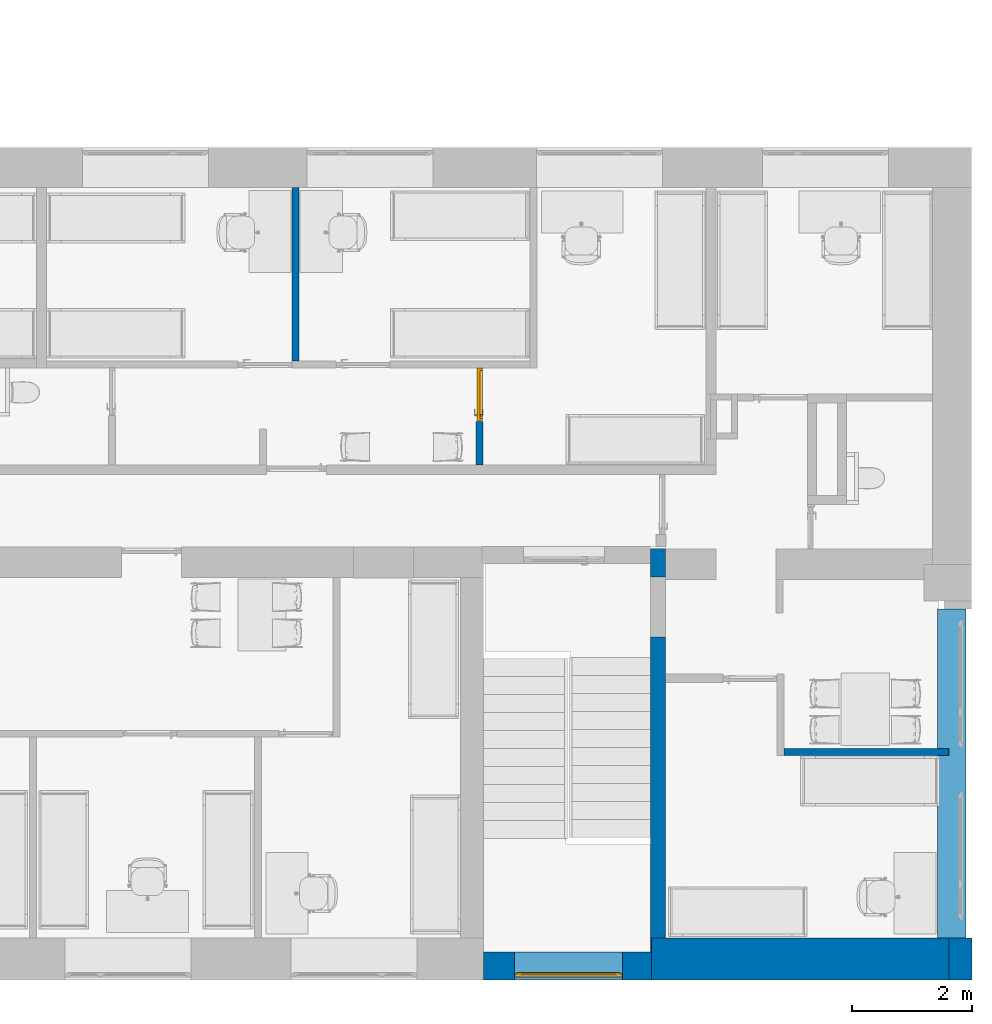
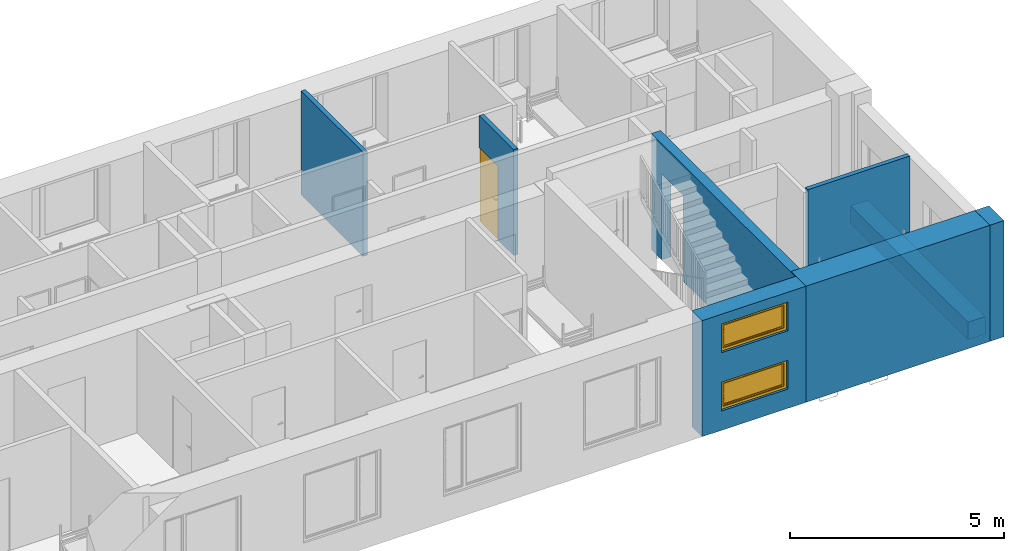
# One storey, part 11 of 48: 8 walls, 2 windows, 1 door, 9 openings.
"""IFC2X3 building model written with IfcOpenShell, lengths in millimetres."""

from ifc_helpers import new_model, entity, si_unit, converted_unit, derived_unit, direction, frame, frame_2d, origin, origin_2d_with_axis, place, context, subcontext, project, spatial, polyline, rectangle, outline, extrude, clip, bounded_halfspace, faceted_brep, source, transform, mapped, material, material_list, layer, layer_set, layer_usage, type_object, type_shapes, element, fill, save


model = new_model("IFC2X3")

# Units and contexts
model_context = context("Model", 3, precision=0.01, world=origin(), true_north=direction((6.12303176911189e-17, 1.0)))
body_context = subcontext(model_context, "Body", "Model", "MODEL_VIEW")
ifc_project = project(units=[si_unit("LENGTHUNIT", "METRE", prefix="MILLI"), si_unit("AREAUNIT", "SQUARE_METRE"), si_unit("VOLUMEUNIT", "CUBIC_METRE"), converted_unit("PLANEANGLEUNIT", "DEGREE", entity("IfcRatioMeasure", 0.0174532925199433), si_unit("PLANEANGLEUNIT", "RADIAN"), dimensions=[0, 0, 0, 0, 0, 0, 0]), si_unit("MASSUNIT", "GRAM", prefix="KILO"), derived_unit("MASSDENSITYUNIT", [(si_unit("MASSUNIT", "GRAM", prefix="KILO"), 1), (si_unit("LENGTHUNIT", "METRE"), -3)]), si_unit("TIMEUNIT", "SECOND"), si_unit("FREQUENCYUNIT", "HERTZ"), si_unit("THERMODYNAMICTEMPERATUREUNIT", "DEGREE_CELSIUS"), derived_unit("THERMALTRANSMITTANCEUNIT", [(si_unit("MASSUNIT", "GRAM", prefix="KILO"), 1), (si_unit("THERMODYNAMICTEMPERATUREUNIT", "KELVIN"), -1), (si_unit("TIMEUNIT", "SECOND"), -3)]), derived_unit("VOLUMETRICFLOWRATEUNIT", [(si_unit("LENGTHUNIT", "METRE"), 3), (si_unit("TIMEUNIT", "SECOND"), -1)]), si_unit("ELECTRICCURRENTUNIT", "AMPERE"), si_unit("ELECTRICVOLTAGEUNIT", "VOLT"), si_unit("POWERUNIT", "WATT"), si_unit("FORCEUNIT", "NEWTON", prefix="KILO"), si_unit("ILLUMINANCEUNIT", "LUX"), si_unit("LUMINOUSFLUXUNIT", "LUMEN"), si_unit("LUMINOUSINTENSITYUNIT", "CANDELA"), derived_unit("USERDEFINED", [(si_unit("MASSUNIT", "GRAM", prefix="KILO"), -1), (si_unit("LENGTHUNIT", "METRE"), -2), (si_unit("TIMEUNIT", "SECOND"), 3), (si_unit("LUMINOUSFLUXUNIT", "LUMEN"), 1)]), derived_unit("LINEARVELOCITYUNIT", [(si_unit("LENGTHUNIT", "METRE"), 1), (si_unit("TIMEUNIT", "SECOND"), -1)]), si_unit("PRESSUREUNIT", "PASCAL"), derived_unit("USERDEFINED", [(si_unit("LENGTHUNIT", "METRE"), -2), (si_unit("MASSUNIT", "GRAM", prefix="KILO"), 1), (si_unit("TIMEUNIT", "SECOND"), -2)]), derived_unit("LINEARFORCEUNIT", [(si_unit("MASSUNIT", "GRAM", prefix="KILO"), 1), (si_unit("LENGTHUNIT", "METRE"), 1), (si_unit("TIMEUNIT", "SECOND"), -2), (si_unit("LENGTHUNIT", "METRE"), -1)]), derived_unit("PLANARFORCEUNIT", [(si_unit("MASSUNIT", "GRAM", prefix="KILO"), 1), (si_unit("LENGTHUNIT", "METRE"), 1), (si_unit("TIMEUNIT", "SECOND"), -2), (si_unit("LENGTHUNIT", "METRE"), -2)])], contexts=[model_context])

# Site, building, storey
site_placement = place(None, origin())
site = spatial("IfcSite", under=ifc_project, at=site_placement, Name="Default", CompositionType="ELEMENT")
building_placement = place(site_placement, origin())
building = spatial("IfcBuilding", under=site, at=building_placement, Name="SMA ARH", CompositionType="ELEMENT")
storey_placement = place(building_placement, frame((0.0, 0.0, 6600.0)))
storey = spatial("IfcBuildingStorey", under=building, at=storey_placement, Name="3 Korrus", CompositionType="ELEMENT", Elevation=6599.99999999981)

# Wall, openings
ifc_material_1 = material(Name="_ol.olev sein")
ifc_layer_1 = layer(ifc_material_1, 700.0)
ifc_layer_set_1 = layer_set([ifc_layer_1], Name="Basic Wall:Generic - 700mm")
ifc_layer_usage_1 = layer_usage(ifc_layer_set_1, "AXIS2", "POSITIVE", -350.0)
wall_type_1 = type_object("IfcWallType", Name="Basic Wall:Generic - 700mm", PredefinedType="STANDARD", material=ifc_layer_set_1)
wall_1_placement = place(storey_placement, frame((33635.0, -350.0, 0.0)))
wall_1 = element("IfcWallStandardCase", 1, at=wall_1_placement, inside=storey, type_object=wall_type_1, material=ifc_layer_usage_1, Name="Basic Wall:Generic - 700mm", ObjectType="Basic Wall:Generic - 700mm", context=body_context, shape_type="SweptSolid", body=[
    extrude(rectangle(XDim=4955.5990008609, YDim=700.0, at=frame_2d((2477.79950043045, -5.6843418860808e-14), x_axis=(-1.0, 0.0))), origin(), (0.0, 0.0, 1.0), 3309.99999999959),
])
opening_1_placement = place(wall_1_placement, origin())
element("IfcOpeningElement", 2, at=opening_1_placement, cuts=wall_1, Name="Basic Wall:Generic - 700mm", ObjectType="Opening", context=body_context, shape_type="SweptSolid", body=[
    extrude(rectangle(XDim=820.0, YDim=1800.0, at=frame_2d((0.0, 0.0), x_axis=(0.0, 1.0))), frame((-1385.0, -1404.0, 960.0), z_axis=(0.0, 1.0, 0.0), x_axis=(-1.0, 0.0, 0.0)), (0.0, 0.0, 1.0), 3048.0),
])
opening_2_placement = place(wall_1_placement, origin())
element("IfcOpeningElement", 3, at=opening_2_placement, cuts=wall_1, Name="Basic Wall:Generic - 700mm", ObjectType="Opening", context=body_context, shape_type="SweptSolid", body=[
    extrude(rectangle(XDim=820.0, YDim=1800.0, at=frame_2d((0.0, 0.0), x_axis=(0.0, 1.0))), frame((-1385.0, -1404.0, 2620.0), z_axis=(0.0, 1.0, 0.0), x_axis=(-1.0, 0.0, 0.0)), (0.0, 0.0, 1.0), 3048.0),
])
opening_3_placement = place(wall_1_placement, origin())
element("IfcOpeningElement", 4, at=opening_3_placement, cuts=wall_1, Name="Basic Wall:Generic - 700mm", ObjectType="Recess", context=body_context, shape_type="SweptSolid", body=[
    extrude(rectangle(XDim=761.05, YDim=2098.41008000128, at=frame_2d((-2.1600499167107e-12, 0.0), x_axis=(0.0, 1.0))), frame((-4954.20504000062, 250.0, 319.475000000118), z_axis=(0.0, 1.0, 0.0), x_axis=(1.0, 0.0, 0.0)), (0.0, 0.0, 1.0), 100.0),
    extrude(rectangle(XDim=761.05, YDim=2098.41008000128, at=frame_2d((2.1600499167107e-12, 0.0), x_axis=(0.0, 1.0))), frame((-8719.20504000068, 250.0, 319.47500000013), z_axis=(0.0, 1.0, 0.0), x_axis=(1.0, 0.0, 0.0)), (0.0, 0.0, 1.0), 100.0),
    extrude(rectangle(XDim=761.05, YDim=2098.41008000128, at=frame_2d((-2.1600499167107e-12, 0.0), x_axis=(0.0, 1.0))), frame((-12504.2050400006, 250.0, 319.475000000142), z_axis=(0.0, 1.0, 0.0), x_axis=(1.0, 0.0, 0.0)), (0.0, 0.0, 1.0), 100.0),
    extrude(rectangle(XDim=761.05, YDim=2098.41008000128, at=frame_2d((0.0, 0.0), x_axis=(0.0, 1.0))), frame((-16264.2050400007, 250.0, 319.475000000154), z_axis=(0.0, 1.0, 0.0), x_axis=(1.0, 0.0, 0.0)), (0.0, 0.0, 1.0), 100.0),
    extrude(rectangle(XDim=761.05, YDim=2098.41008000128, at=frame_2d((-2.1600499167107e-12, 0.0), x_axis=(0.0, 1.0))), frame((-20024.2050400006, 250.0, 319.475000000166), z_axis=(0.0, 1.0, 0.0), x_axis=(1.0, 0.0, 0.0)), (0.0, 0.0, 1.0), 100.0),
    extrude(rectangle(XDim=761.05, YDim=2098.41008000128, at=frame_2d((0.0, 0.0), x_axis=(0.0, 1.0))), frame((-23804.2050400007, 250.0, 319.475000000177), z_axis=(0.0, 1.0, 0.0), x_axis=(1.0, 0.0, 0.0)), (0.0, 0.0, 1.0), 100.0),
    extrude(rectangle(XDim=761.05, YDim=2098.41008000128, at=frame_2d((0.0, 0.0), x_axis=(0.0, 1.0))), frame((-27564.2050400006, 250.0, 319.475000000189), z_axis=(0.0, 1.0, 0.0), x_axis=(1.0, 0.0, 0.0)), (0.0, 0.0, 1.0), 100.0),
    extrude(rectangle(XDim=761.05, YDim=2098.41008000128, at=frame_2d((1.13686837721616e-13, 0.0), x_axis=(0.0, 1.0))), frame((-31344.2050400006, 250.0, 319.475000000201), z_axis=(0.0, 1.0, 0.0), x_axis=(1.0, 0.0, 0.0)), (0.0, 0.0, 1.0), 100.0),
    extrude(rectangle(XDim=761.05, YDim=2098.41008000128, at=frame_2d((2.1600499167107e-12, 0.0), x_axis=(0.0, 1.0))), frame((-4954.20504000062, 250.0, 3629.47499999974), z_axis=(0.0, 1.0, 0.0), x_axis=(1.0, 0.0, 0.0)), (0.0, 0.0, 1.0), 100.0),
    extrude(rectangle(XDim=761.05, YDim=2098.41008000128, at=frame_2d((-2.1600499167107e-12, 0.0), x_axis=(0.0, 1.0))), frame((-8719.20504000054, 250.0, 3629.47499999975), z_axis=(0.0, 1.0, 0.0), x_axis=(1.0, 0.0, 0.0)), (0.0, 0.0, 1.0), 100.0),
    extrude(rectangle(XDim=761.05, YDim=2098.41008000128, at=frame_2d((0.0, 0.0), x_axis=(0.0, 1.0))), frame((-12504.2050400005, 250.0, 3629.47499999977), z_axis=(0.0, 1.0, 0.0), x_axis=(1.0, 0.0, 0.0)), (0.0, 0.0, 1.0), 100.0),
    extrude(rectangle(XDim=761.05, YDim=2098.41008000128, at=frame_2d((0.0, 0.0), x_axis=(0.0, 1.0))), frame((-16264.2050400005, 250.0, 3629.47499999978), z_axis=(0.0, 1.0, 0.0), x_axis=(1.0, 0.0, 0.0)), (0.0, 0.0, 1.0), 100.0),
    extrude(rectangle(XDim=761.05, YDim=2098.41008000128, at=frame_2d((0.0, 0.0), x_axis=(0.0, 1.0))), frame((-20024.2050400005, 250.0, 3629.47499999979), z_axis=(0.0, 1.0, 0.0), x_axis=(1.0, 0.0, 0.0)), (0.0, 0.0, 1.0), 100.0),
    extrude(rectangle(XDim=761.05, YDim=2098.41008000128, at=frame_2d((0.0, 0.0), x_axis=(0.0, 1.0))), frame((-23804.2050400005, 250.0, 3629.47499999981), z_axis=(0.0, 1.0, 0.0), x_axis=(1.0, 0.0, 0.0)), (0.0, 0.0, 1.0), 100.0),
    extrude(rectangle(XDim=761.05, YDim=2098.41008000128, at=frame_2d((0.0, 0.0), x_axis=(0.0, 1.0))), frame((-27564.2050400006, 250.0, 3629.47499999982), z_axis=(0.0, 1.0, 0.0), x_axis=(1.0, 0.0, 0.0)), (0.0, 0.0, 1.0), 100.0),
    extrude(rectangle(XDim=761.05, YDim=2098.41008000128, at=frame_2d((1.13686837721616e-13, 0.0), x_axis=(0.0, 1.0))), frame((-31344.2050400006, 250.0, 3629.47499999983), z_axis=(0.0, 1.0, 0.0), x_axis=(1.0, 0.0, 0.0)), (0.0, 0.0, 1.0), 100.0),
])

# Wall, opening
ifc_layer_2 = layer(ifc_material_1, 250.0)
ifc_layer_set_2 = layer_set([ifc_layer_2], Name="Basic Wall:Generic - 250mm")
ifc_layer_usage_2 = layer_usage(ifc_layer_set_2, "AXIS2", "NEGATIVE", 125.0)
wall_type_2 = type_object("IfcWallType", Name="Basic Wall:Generic - 250mm", PredefinedType="STANDARD", material=ifc_layer_set_2)
wall_2_placement = place(storey_placement, frame((33740.0, 6520.0, 0.0), z_axis=(0.0, 0.0, 1.0), x_axis=(0.0, -1.0, 0.0)))
wall_2 = element("IfcWallStandardCase", 5, at=wall_2_placement, inside=storey, type_object=wall_type_2, material=ifc_layer_usage_2, Name="Basic Wall:Generic - 250mm", ObjectType="Basic Wall:Generic - 250mm", context=body_context, shape_type="Clipping", body=[
    clip(clip(extrude(outline(polyline([(6520.0, -105.0), (6520.0, 125.0), (510.0, 125.0), (30.0, 125.0), (30.0, -125.0), (280.0, -125.0), (6520.0, -125.0), (6750.0, -125.0), (6750.0, -105.0), (6520.0, -105.0)])), origin(), (0.0, 0.0, 1.0), 3309.99999999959), bounded_halfspace(frame((30.0, -125.0, 2980.0), z_axis=(0.0, 0.0, -1.0), x_axis=(-1.0, 0.0, 0.0)), True, frame((30.0, -125.0, 2980.0), z_axis=(0.0, 0.0, -1.0), x_axis=(-1.0, 0.0, 0.0)), polyline([(0.0, 0.0), (30.0, 0.0), (30.0, 250.0), (0.0, 250.0), (0.0, 0.0)]))), bounded_halfspace(frame((30.0, 125.0, 2980.0), z_axis=(1.0, 0.0, 0.0), x_axis=(0.0, 0.0, 1.0)), True, frame((30.0, 125.0, 2980.0), z_axis=(1.0, 0.0, 0.0), x_axis=(0.0, 0.0, 1.0)), polyline([(0.0, 0.0), (330.0, 0.0), (330.0, 250.0), (0.0, 250.0), (0.0, 0.0)]))),
])
opening_4_placement = place(wall_2_placement, origin())
element("IfcOpeningElement", 6, at=opening_4_placement, cuts=wall_2, Name="Basic Wall:Generic - 250mm", ObjectType="Opening", context=body_context, shape_type="SweptSolid", body=[
    extrude(rectangle(XDim=2448.3999999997, YDim=1000.00000000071, at=origin_2d_with_axis()), frame((1010.0, -125.0, 1224.19999999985), z_axis=(0.0, 1.0, 0.0), x_axis=(0.0, 0.0, -1.0)), (0.0, 0.0, 1.0), 250.000000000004),
])

ifc_layer_3 = layer(ifc_material_1, 380.0)
ifc_layer_set_3 = layer_set([ifc_layer_3], Name="Basic Wall:Generic - 380mm")
ifc_layer_usage_3 = layer_usage(ifc_layer_set_3, "AXIS2", "POSITIVE", -190.0)
wall_type_3 = type_object("IfcWallType", Name="Basic Wall:Generic - 380mm", PredefinedType="STANDARD", material=ifc_layer_set_3)
wall_3_placement = place(storey_placement, frame((38780.5990008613, -700.0, 0.0), z_axis=(0.0, 0.0, 1.0), x_axis=(0.0, 1.0, 0.0)))
wall_3 = element("IfcWallStandardCase", 7, at=wall_3_placement, inside=storey, type_object=wall_type_3, material=ifc_layer_usage_3, Name="Basic Wall:Generic - 380mm", ObjectType="Basic Wall:Generic - 380mm", context=body_context, shape_type="SweptSolid", body=[
    extrude(rectangle(XDim=699.999999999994, YDim=380.0, at=frame_2d((349.999999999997, 0.0), x_axis=(-1.0, 0.0))), origin(), (0.0, 0.0, 1.0), 3309.99999999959),
])
opening_5_placement = place(wall_3_placement, origin())
element("IfcOpeningElement", 8, at=opening_5_placement, cuts=wall_3, Name="Basic Wall:Generic - 380mm", ObjectType="Opening", context=body_context, shape_type="SweptSolid", body=[
    extrude(rectangle(XDim=1300.0, YDim=2130.0, at=frame_2d((-2.27373675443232e-13, 0.0), x_axis=(0.0, 1.0))), frame((4935.0, -1333.30199827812, 1450.0), z_axis=(0.0, 1.0, 0.0), x_axis=(-1.0, 0.0, 0.0)), (0.0, 0.0, 1.0), 3048.0),
])

# Wall
ifc_layer_4 = layer(ifc_material_1, 470.0)
ifc_layer_set_4 = layer_set([ifc_layer_4], Name="Basic Wall:Generic - 470mm")
ifc_layer_usage_4 = layer_usage(ifc_layer_set_4, "AXIS2", "NEGATIVE", 235.0)
wall_type_4 = type_object("IfcWallType", Name="Basic Wall:Generic - 470mm", PredefinedType="STANDARD", material=ifc_layer_set_4)
wall_4_placement = place(storey_placement, frame((38634.9009991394, 5480.0, -310.0), z_axis=(0.0, 0.0, 1.0), x_axis=(0.0, -1.0, 0.0)))
element("IfcWallStandardCase", 9, at=wall_4_placement, inside=storey, type_object=wall_type_4, material=ifc_layer_usage_4, Name="Basic Wall:Generic - 470mm", ObjectType="Basic Wall:Generic - 470mm", context=body_context, shape_type="SweptSolid", body=[
    extrude(rectangle(XDim=5480.00000000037, YDim=469.999999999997, at=frame_2d((2740.00000000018, 1.13686837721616e-13), x_axis=(-1.0, 0.0))), origin(), (0.0, 0.0, 1.0), 500.000000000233),
])

# Wall, openings, windows
ifc_layer_usage_5 = layer_usage(ifc_layer_set_4, "AXIS2", "POSITIVE", -235.0)
wall_5_placement = place(storey_placement, frame((30830.0, -465.0, 0.0)))
wall_5 = element("IfcWallStandardCase", 10, at=wall_5_placement, inside=storey, type_object=wall_type_4, material=ifc_layer_usage_5, Name="Basic Wall:Generic - 470mm", ObjectType="Basic Wall:Generic - 470mm", context=body_context, shape_type="SweptSolid", body=[
    extrude(rectangle(XDim=2805.0, YDim=470.0, at=frame_2d((1402.5, 4.2632564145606e-14), x_axis=(-1.0, 0.0))), origin(), (0.0, 0.0, 1.0), 3309.99999999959),
])
opening_6_placement = place(wall_5_placement, origin())
element("IfcOpeningElement", 11, at=opening_6_placement, cuts=wall_5, Name="Basic Wall:Generic - 470mm", ObjectType="Recess", context=body_context, shape_type="SweptSolid", body=[
    extrude(rectangle(XDim=761.05, YDim=2098.41008000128, at=frame_2d((-2.1600499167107e-12, 0.0), x_axis=(0.0, 1.0))), frame((-2149.20504000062, 365.0, 319.475000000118), z_axis=(0.0, 1.0, 0.0), x_axis=(1.0, 0.0, 0.0)), (0.0, 0.0, 1.0), 100.0),
    extrude(rectangle(XDim=761.05, YDim=2098.41008000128, at=frame_2d((2.1600499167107e-12, 0.0), x_axis=(0.0, 1.0))), frame((-5914.20504000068, 365.0, 319.47500000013), z_axis=(0.0, 1.0, 0.0), x_axis=(1.0, 0.0, 0.0)), (0.0, 0.0, 1.0), 100.0),
    extrude(rectangle(XDim=761.05, YDim=2098.41008000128, at=frame_2d((-2.1600499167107e-12, 0.0), x_axis=(0.0, 1.0))), frame((-9699.2050400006, 365.0, 319.475000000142), z_axis=(0.0, 1.0, 0.0), x_axis=(1.0, 0.0, 0.0)), (0.0, 0.0, 1.0), 100.0),
    extrude(rectangle(XDim=761.05, YDim=2098.41008000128, at=frame_2d((0.0, 0.0), x_axis=(0.0, 1.0))), frame((-13459.2050400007, 365.0, 319.475000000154), z_axis=(0.0, 1.0, 0.0), x_axis=(1.0, 0.0, 0.0)), (0.0, 0.0, 1.0), 100.0),
    extrude(rectangle(XDim=761.05, YDim=2098.41008000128, at=frame_2d((-2.1600499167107e-12, 0.0), x_axis=(0.0, 1.0))), frame((-17219.2050400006, 365.0, 319.475000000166), z_axis=(0.0, 1.0, 0.0), x_axis=(1.0, 0.0, 0.0)), (0.0, 0.0, 1.0), 100.0),
    extrude(rectangle(XDim=761.05, YDim=2098.41008000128, at=frame_2d((0.0, 0.0), x_axis=(0.0, 1.0))), frame((-20999.2050400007, 365.0, 319.475000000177), z_axis=(0.0, 1.0, 0.0), x_axis=(1.0, 0.0, 0.0)), (0.0, 0.0, 1.0), 100.0),
    extrude(rectangle(XDim=761.05, YDim=2098.41008000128, at=frame_2d((0.0, 0.0), x_axis=(0.0, 1.0))), frame((-24759.2050400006, 365.0, 319.475000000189), z_axis=(0.0, 1.0, 0.0), x_axis=(1.0, 0.0, 0.0)), (0.0, 0.0, 1.0), 100.0),
    extrude(rectangle(XDim=761.05, YDim=2098.41008000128, at=frame_2d((1.13686837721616e-13, 0.0), x_axis=(0.0, 1.0))), frame((-28539.2050400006, 365.0, 319.475000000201), z_axis=(0.0, 1.0, 0.0), x_axis=(1.0, 0.0, 0.0)), (0.0, 0.0, 1.0), 100.0),
    extrude(rectangle(XDim=761.05, YDim=2098.41008000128, at=frame_2d((2.1600499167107e-12, 0.0), x_axis=(0.0, 1.0))), frame((-2149.20504000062, 365.0, 3629.47499999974), z_axis=(0.0, 1.0, 0.0), x_axis=(1.0, 0.0, 0.0)), (0.0, 0.0, 1.0), 100.0),
    extrude(rectangle(XDim=761.05, YDim=2098.41008000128, at=frame_2d((-2.1600499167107e-12, 0.0), x_axis=(0.0, 1.0))), frame((-5914.20504000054, 365.0, 3629.47499999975), z_axis=(0.0, 1.0, 0.0), x_axis=(1.0, 0.0, 0.0)), (0.0, 0.0, 1.0), 100.0),
    extrude(rectangle(XDim=761.05, YDim=2098.41008000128, at=frame_2d((0.0, 0.0), x_axis=(0.0, 1.0))), frame((-9699.20504000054, 365.0, 3629.47499999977), z_axis=(0.0, 1.0, 0.0), x_axis=(1.0, 0.0, 0.0)), (0.0, 0.0, 1.0), 100.0),
    extrude(rectangle(XDim=761.05, YDim=2098.41008000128, at=frame_2d((0.0, 0.0), x_axis=(0.0, 1.0))), frame((-13459.2050400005, 365.0, 3629.47499999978), z_axis=(0.0, 1.0, 0.0), x_axis=(1.0, 0.0, 0.0)), (0.0, 0.0, 1.0), 100.0),
    extrude(rectangle(XDim=761.05, YDim=2098.41008000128, at=frame_2d((0.0, 0.0), x_axis=(0.0, 1.0))), frame((-17219.2050400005, 365.0, 3629.47499999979), z_axis=(0.0, 1.0, 0.0), x_axis=(1.0, 0.0, 0.0)), (0.0, 0.0, 1.0), 100.0),
    extrude(rectangle(XDim=761.05, YDim=2098.41008000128, at=frame_2d((0.0, 0.0), x_axis=(0.0, 1.0))), frame((-20999.2050400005, 365.0, 3629.47499999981), z_axis=(0.0, 1.0, 0.0), x_axis=(1.0, 0.0, 0.0)), (0.0, 0.0, 1.0), 100.0),
    extrude(rectangle(XDim=761.05, YDim=2098.41008000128, at=frame_2d((0.0, 0.0), x_axis=(0.0, 1.0))), frame((-24759.2050400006, 365.0, 3629.47499999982), z_axis=(0.0, 1.0, 0.0), x_axis=(1.0, 0.0, 0.0)), (0.0, 0.0, 1.0), 100.0),
    extrude(rectangle(XDim=761.05, YDim=2098.41008000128, at=frame_2d((1.13686837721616e-13, 0.0), x_axis=(0.0, 1.0))), frame((-28539.2050400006, 365.0, 3629.47499999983), z_axis=(0.0, 1.0, 0.0), x_axis=(1.0, 0.0, 0.0)), (0.0, 0.0, 1.0), 100.0),
])
opening_7_placement = place(wall_5_placement, frame((2320.0, 235.0, 550.0)))
opening_7 = element("IfcOpeningElement", 12, at=opening_7_placement, cuts=wall_5, Name="SMA_W1, 1-jaotus1:A-00_18000x600 mm:1", ObjectType="Opening", context=body_context, shape_type="SweptSolid", body=[
    extrude(rectangle(XDim=820.0, YDim=1800.0, at=frame_2d((410.0, 900.0), x_axis=(1.0, 0.0))), frame((0.0, 0.0, 0.0), z_axis=(0.0, -1.0, 0.0), x_axis=(0.0, 0.0, 1.0)), (0.0, 0.0, 1.0), 470.0),
])
opening_8_placement = place(wall_5_placement, frame((2320.0, 235.0, 2210.0)))
opening_8 = element("IfcOpeningElement", 13, at=opening_8_placement, cuts=wall_5, Name="SMA_W1, 1-jaotus1:A-00_18000x600 mm:1", ObjectType="Opening", context=body_context, shape_type="SweptSolid", body=[
    extrude(rectangle(XDim=820.0, YDim=1800.0, at=frame_2d((410.0, 900.0), x_axis=(1.0, 0.0))), frame((0.0, 0.0, 0.0), z_axis=(0.0, -1.0, 0.0), x_axis=(0.0, 0.0, 1.0)), (0.0, 0.0, 1.0), 470.0),
])
ifc_material_2 = material(Name="EST. Klaas. 3x. Default")
ifc_material_3 = material(Name="Default")
ifc_material_list_1 = material_list([ifc_material_2, ifc_material_3])
ifc_material_4 = material(Name="<Unnamed>")
ifc_material_list_2 = material_list([ifc_material_4, ifc_material_4, ifc_material_3, ifc_material_3, ifc_material_2])
window_style = type_object("IfcWindowStyle", Name="SMA_W1, 1-jaotus1:A-00_18000x600 mm", ConstructionType="NOTDEFINED", OperationType="NOTDEFINED", ParameterTakesPrecedence=False, Sizeable=False, material=ifc_material_list_2)
shared_shape_1 = source(origin(), body_context, "Body", "SweptSolid", [
    extrude(rectangle(XDim=20.0, YDim=1570.0, at=frame_2d((-7.99360577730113e-15, -5.6843418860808e-14), x_axis=(1.0, 0.0))), frame((900.0, 370.0, 115.0), z_axis=(0.0, 0.0, 1.0), x_axis=(0.0, 1.0, 0.0)), (0.0, 0.0, 1.0), 590.0),
    extrude(outline(polyline([(-365.0, -855.0), (365.0, -855.0), (365.0, 855.0), (-365.0, 855.0), (-365.0, -855.0)]), holes=[polyline([(295.0, 785.0), (295.0, -785.0), (-295.0, -785.0), (-295.0, 785.0), (295.0, 785.0)])]), frame((900.0, 345.0, 410.0), z_axis=(0.0, 1.0, 0.0), x_axis=(0.0, 0.0, 1.0)), (0.0, 0.0, 1.0), 50.0),
    extrude(outline(polyline([(-400.0, -890.0), (400.0, -890.0), (400.0, 890.0), (-400.0, 890.0), (-400.0, -890.0)]), holes=[polyline([(-330.0, -820.0), (-330.0, 820.0), (330.0, 820.0), (330.0, -820.0), (-330.0, -820.0)])]), frame((900.0, 370.0, 410.0), z_axis=(0.0, 1.0, 0.0), x_axis=(0.0, 0.0, 1.0)), (0.0, 0.0, 1.0), 50.0),
])
type_shapes(window_style, [shared_shape_1])
window_1_placement = place(opening_7_placement, frame((0.0, 0.0, 0.0), z_axis=(0.0, 0.0, 1.0), x_axis=(-1.0, 0.0, 0.0)))
window_1 = element("IfcWindow", 14, at=window_1_placement, inside=storey, type_object=window_style, material=ifc_material_list_1, Name="SMA_W1, 1-jaotus1:A-00_18000x600 mm", ObjectType="SMA_W1, 1-jaotus1:A-00_18000x600 mm", OverallHeight=820.0, OverallWidth=1800.0, context=body_context, shape_type="MappedRepresentation", body=[
    mapped(shared_shape_1, transform((0.0, 0.0, 0.0), scale=1.0)),
])
fill(opening_7, window_1)
ifc_material_list_3 = material_list([ifc_material_2, ifc_material_3])
window_2_placement = place(opening_8_placement, frame((0.0, 0.0, 0.0), z_axis=(0.0, 0.0, 1.0), x_axis=(-1.0, 0.0, 0.0)))
window_2 = element("IfcWindow", 15, at=window_2_placement, inside=storey, type_object=window_style, material=ifc_material_list_3, Name="SMA_W1, 1-jaotus1:A-00_18000x600 mm", ObjectType="SMA_W1, 1-jaotus1:A-00_18000x600 mm", OverallHeight=820.0, OverallWidth=1800.0, context=body_context, shape_type="MappedRepresentation", body=[
    mapped(shared_shape_1, transform((0.0, 0.0, 0.0), scale=1.0)),
])
fill(opening_8, window_2)

# Walls
ifc_material_5 = material(Name="EST. Ehitusplaat. Kipsplaat")
ifc_layer_5 = layer(ifc_material_5, 12.5)
ifc_layer_6 = layer(ifc_material_5, 12.5)
ifc_material_6 = material(Name="EST. Soojustus. Mineraalvill. Default")
ifc_layer_7 = layer(ifc_material_6, 66.0)
ifc_layer_8 = layer(ifc_material_5, 12.5)
ifc_layer_9 = layer(ifc_material_5, 12.5)
ifc_layer_set_5 = layer_set([ifc_layer_5, ifc_layer_6, ifc_layer_7, ifc_layer_8, ifc_layer_9], Name="Basic Wall:SS-05_Kips, 66mm metallkarkass")
ifc_layer_usage_6 = layer_usage(ifc_layer_set_5, "AXIS2", "NEGATIVE", 58.0)
wall_type_5 = type_object("IfcWallType", Name="Basic Wall:SS-05_Kips, 66mm metallkarkass", PredefinedType="STANDARD", material=ifc_layer_set_5)
wall_6_placement = place(storey_placement, frame((27701.5000000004, 12500.0, 0.0), z_axis=(0.0, 0.0, 1.0), x_axis=(0.0, -1.0, 0.0)))
element("IfcWallStandardCase", 16, at=wall_6_placement, inside=storey, type_object=wall_type_5, material=ifc_layer_usage_6, Name="Basic Wall:SS-05_Kips, 66mm metallkarkass", ObjectType="Basic Wall:SS-05_Kips, 66mm metallkarkass", context=body_context, shape_type="SweptSolid", body=[
    extrude(rectangle(XDim=2889.49999999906, YDim=116.0, at=frame_2d((1444.74999999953, -2.06057393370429e-13), x_axis=(-1.0, 0.0))), origin(), (0.0, 0.0, 1.0), 2970.00000000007),
])
ifc_layer_usage_7 = layer_usage(ifc_layer_set_5, "AXIS2", "NEGATIVE", 58.0)
wall_7_placement = place(storey_placement, frame((35841.5000000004, 3097.50000000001, 0.0)))
element("IfcWallStandardCase", 17, at=wall_7_placement, inside=storey, type_object=wall_type_5, material=ifc_layer_usage_7, Name="Basic Wall:SS-05_Kips, 66mm metallkarkass", ObjectType="Basic Wall:SS-05_Kips, 66mm metallkarkass", context=body_context, shape_type="SweptSolid", body=[
    extrude(rectangle(XDim=2748.40099913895, YDim=116.0, at=frame_2d((1374.20049956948, -1.31450406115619e-13), x_axis=(-1.0, 0.0))), origin(), (0.0, 0.0, 1.0), 3019.99999999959),
])

# Wall, opening, door
ifc_layer_usage_8 = layer_usage(ifc_layer_set_5, "AXIS2", "NEGATIVE", 58.0)
wall_8_placement = place(storey_placement, frame((30766.5835423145, 9494.50000000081, 0.0), z_axis=(0.0, 0.0, 1.0), x_axis=(0.0, -1.0, 0.0)))
wall_8 = element("IfcWallStandardCase", 18, at=wall_8_placement, inside=storey, type_object=wall_type_5, material=ifc_layer_usage_8, Name="Basic Wall:SS-05_Kips, 66mm metallkarkass", ObjectType="Basic Wall:SS-05_Kips, 66mm metallkarkass", context=body_context, shape_type="SweptSolid", body=[
    extrude(rectangle(XDim=1612.0000000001, YDim=116.0, at=frame_2d((806.000000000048, 1.77635683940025e-14), x_axis=(-1.0, 0.0))), origin(), (0.0, 0.0, 1.0), 3019.99999999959),
])
opening_9_placement = place(wall_8_placement, frame((887.500000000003, 58.0, 0.0)))
opening_9 = element("IfcOpeningElement", 19, at=opening_9_placement, cuts=wall_8, Name="SMA_D01, 1-poolne:SU-P-05 - 900x2100 TUBA:1", ObjectType="Opening", context=body_context, shape_type="SweptSolid", body=[
    extrude(rectangle(XDim=2099.99999999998, YDim=900.0, at=frame_2d((1049.99999999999, 450.0), x_axis=(1.0, 0.0))), frame((0.0, 0.0, 0.0), z_axis=(0.0, -1.0, 0.0), x_axis=(0.0, 0.0, 1.0)), (0.0, 0.0, 1.0), 116.0),
])
ifc_material_7 = material(Name="EST. Metall. Alumiinium. Värvitud. RAL7023 (Concrete grey)")
ifc_material_list_4 = material_list([ifc_material_4, ifc_material_2, ifc_material_4, ifc_material_7, ifc_material_7, ifc_material_7, ifc_material_4])
door_style = type_object("IfcDoorStyle", Name="SMA_D01, 1-poolne:SU-P-05 - 900x2100 TUBA", ConstructionType="NOTDEFINED", OperationType="SINGLE_SWING_RIGHT", ParameterTakesPrecedence=False, Sizeable=False, material=ifc_material_list_4)
shared_shape_2 = source(origin(), body_context, "Body", "Brep", [
    faceted_brep([(110.0, 6.0, 1112.5), (110.0, 44.0, 1112.5), (85.0, 44.0, 1112.5), (85.0, 1.0, 1112.5), (205.0, 1.0, 1112.5), (205.0, 6.0, 1112.5), (110.0, 6.0, 1087.5), (205.0, 6.0, 1087.5), (205.0, 1.0, 1087.5), (85.0, 1.0, 1087.5), (85.0, 44.0, 1087.5), (110.0, 44.0, 1087.5)], [[[0, 1, 2, 3, 4, 5]], [[6, 7, 8, 9, 10, 11]], [[1, 0, 6, 11]], [[2, 1, 11, 10]], [[3, 2, 10, 9]], [[4, 3, 9, 8]], [[5, 4, 8, 7]], [[0, 5, 7, 6]]]),
    faceted_brep([(122.5, 44.0, 1137.5), (122.5, 46.0, 1137.5), (72.5000000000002, 46.0, 1137.5), (72.5000000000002, 44.0, 1137.5), (122.5, 44.0, 1017.5), (72.5000000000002, 44.0, 1017.5), (72.5000000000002, 46.0, 1017.5), (122.5, 46.0, 1017.5)], [[[0, 1, 2, 3]], [[4, 5, 6, 7]], [[1, 0, 4, 7]], [[2, 1, 7, 6]], [[3, 2, 6, 5]], [[0, 3, 5, 4]]]),
    faceted_brep([(110.0, 136.0, 1112.5), (205.0, 136.0, 1112.5), (205.0, 141.0, 1112.5), (85.0, 141.0, 1112.5), (85.0, 98.0, 1112.5), (110.0, 98.0, 1112.5), (110.0, 136.0, 1087.5), (110.0, 98.0, 1087.5), (85.0, 98.0, 1087.5), (85.0, 141.0, 1087.5), (205.0, 141.0, 1087.5), (205.0, 136.0, 1087.5)], [[[0, 1, 2, 3, 4, 5]], [[6, 7, 8, 9, 10, 11]], [[5, 7, 6, 0]], [[4, 8, 7, 5]], [[3, 9, 8, 4]], [[2, 10, 9, 3]], [[1, 11, 10, 2]], [[0, 6, 11, 1]]]),
    faceted_brep([(122.5, 98.0, 1137.5), (72.5000000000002, 98.0, 1137.5), (72.5000000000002, 96.0, 1137.5), (122.5, 96.0, 1137.5), (122.5, 98.0, 1017.5), (122.5, 96.0, 1017.5), (72.5000000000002, 96.0, 1017.5), (72.5000000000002, 98.0, 1017.5)], [[[0, 1, 2, 3]], [[4, 5, 6, 7]], [[3, 5, 4, 0]], [[2, 6, 5, 3]], [[1, 7, 6, 2]], [[0, 4, 7, 1]]]),
    faceted_brep([(850.0, 6.0, 30.0), (850.0, 6.0, 0.0), (850.0, 46.0, 0.0), (850.0, 46.0, 20.0), (850.0, 46.0, 30.0), (50.0, 6.0, 30.0), (50.0, 46.0, 30.0), (50.0, 46.0, 20.0), (50.0, 46.0, 0.0), (50.0, 6.0, 0.0), (35.0, 46.0, 0.0), (35.0, 96.0, 0.0), (865.0, 96.0, 0.0), (865.0, 46.0, 0.0), (865.0, 96.0, 20.0), (865.0, 46.0, 20.0), (35.0, 96.0, 20.0), (35.0, 46.0, 20.0)], [[[0, 1, 2, 3, 4]], [[5, 6, 7, 8, 9]], [[1, 0, 5, 9]], [[2, 1, 9, 8, 10, 11, 12, 13]], [[6, 4, 3, 7]], [[0, 4, 6, 5]], [[14, 15, 13, 12]], [[16, 11, 10, 17]], [[15, 14, 16, 17, 7, 3]], [[13, 15, 3, 2]], [[14, 12, 11, 16]], [[17, 10, 8, 7]]]),
    faceted_brep([(890.0, 6.0, 0.0), (850.0, 6.0, 0.0), (850.0, 46.0, 0.0), (865.0, 46.0, 0.0), (865.0, 96.0, 0.0), (890.0, 96.0, 0.0), (890.0, 6.0, 2090.0), (10.0, 6.0, 2090.0), (10.0, 6.0, 0.0), (50.0, 6.0, 0.0), (50.0, 6.0, 2050.0), (850.0, 6.0, 2050.0), (850.0, 46.0, 2050.0), (50.0, 46.0, 2050.0), (50.0, 46.0, 0.0), (35.0, 46.0, 0.0), (35.0, 46.0, 2065.0), (865.0, 46.0, 2065.0), (865.0, 96.0, 2065.0), (35.0, 96.0, 2065.0), (35.0, 96.0, 0.0), (10.0, 96.0, 0.0), (10.0, 96.0, 2090.0), (890.0, 96.0, 2090.0)], [[[0, 1, 2, 3, 4, 5]], [[1, 0, 6, 7, 8, 9, 10, 11]], [[2, 1, 11, 12]], [[3, 2, 12, 13, 14, 15, 16, 17]], [[4, 3, 17, 18]], [[5, 4, 18, 19, 20, 21, 22, 23]], [[0, 5, 23, 6]], [[8, 7, 22, 21]], [[9, 8, 21, 20, 15, 14]], [[10, 9, 14, 13]], [[16, 15, 20, 19]], [[11, 10, 13, 12]], [[17, 16, 19, 18]], [[7, 6, 23, 22]]]),
    faceted_brep([(35.0, 46.0, 2065.0), (35.0, 46.0, 20.0), (865.0, 46.0, 20.0), (865.0, 46.0, 2065.0), (35.0, 96.0, 2065.0), (865.0, 96.0, 2065.0), (865.0, 96.0, 20.0), (35.0, 96.0, 20.0)], [[[0, 1, 2, 3]], [[4, 5, 6, 7]], [[1, 0, 4, 7]], [[2, 1, 7, 6]], [[3, 2, 6, 5]], [[0, 3, 5, 4]]]),
])
type_shapes(door_style, [shared_shape_2])
door_placement = place(opening_9_placement, frame((0.0, 0.0, 0.0), z_axis=(0.0, 0.0, 1.0), x_axis=(-1.0, 0.0, 0.0)))
door = element("IfcDoor", 20, at=door_placement, inside=storey, type_object=door_style, material=ifc_material_7, Name="SMA_D01, 1-poolne:SU-P-05 - 900x2100 TUBA", ObjectType="SMA_D01, 1-poolne:SU-P-05 - 900x2100 TUBA", OverallHeight=2099.99999999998, OverallWidth=900.0, context=body_context, shape_type="MappedRepresentation", body=[
    mapped(shared_shape_2, transform((0.0, 0.0, 0.0), scale=1.0)),
])
fill(opening_9, door)

save(model, "model.ifc")
